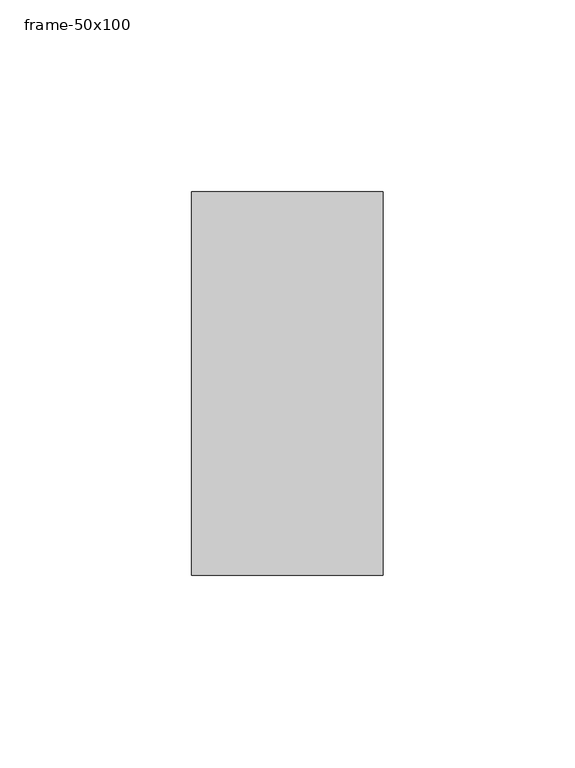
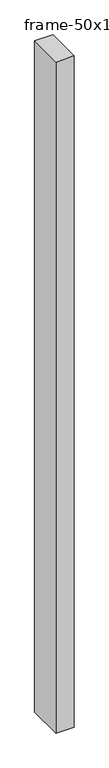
"""IFC4 building model written with IfcOpenShell, lengths in millimetres: member geometry, 長方形マリオン : frame-50x100."""

from ifc_helpers import new_model, si_unit, frame, origin, place, context, project, spatial, polyline, outline, extrude, source, transform, mapped, element, save


def frame_50x100_6de2b0af(model_context):
    return source(origin(), model_context, "Body", "SweptSolid", [
        extrude(outline(polyline([(0.0, 50.0), (0.0, -50.0), (-50.0, -50.0), (-50.0, 50.0), (0.0, 50.0)])), frame((0.0, 0.0, -1932.9061752), z_axis=(0.0, 0.0, 1.0), x_axis=(1.0, 0.0, 0.0)), (0.0, 0.0, 1.0), 1932.9061752),
    ])


if __name__ == "__main__":
    model = new_model("IFC4")
    model_context = context("Model", 3, world=origin())
    ifc_project = project(units=[si_unit("LENGTHUNIT", "METRE", prefix="MILLI")], contexts=[model_context])
    site = spatial("IfcSite", under=ifc_project)
    building = spatial("IfcBuilding", under=site)
    placement = place(None, origin())
    frame_50x100_shape = frame_50x100_6de2b0af(model_context)
    element("IfcMember", 1, ObjectType="長方形マリオン : frame-50x100", at=placement, inside=building, context=model_context, shape_type="MappedRepresentation", body=[
        mapped(frame_50x100_shape, transform((0.0, 0.0, 0.0), x_axis=(1.0, 0.0, 0.0), y_axis=(0.0, 1.0, 0.0), z_axis=(0.0, 0.0, 1.0))),
    ])
    save(model, "model.ifc")
